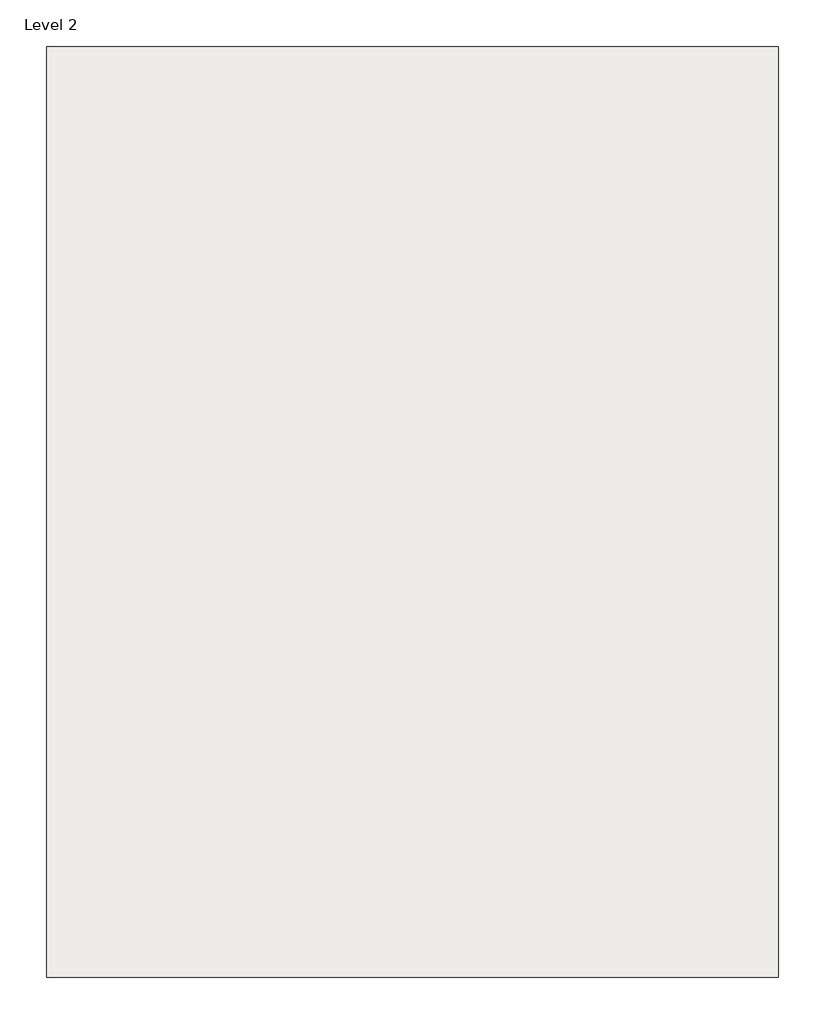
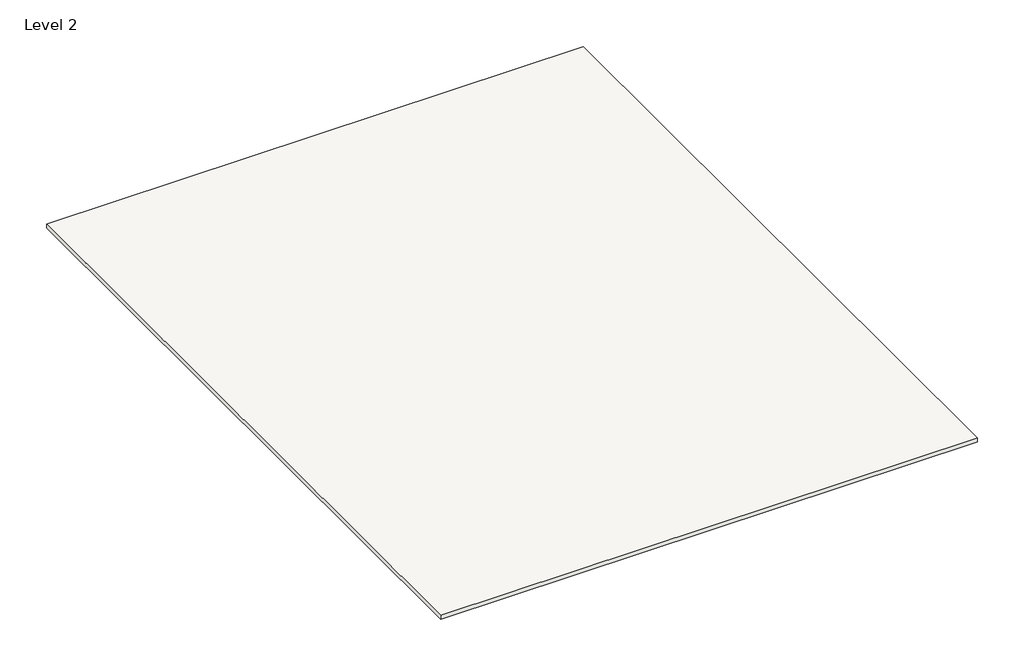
# One storey: 1 covering.
"""IFC4 building model written with IfcOpenShell, lengths in millimetres."""

from ifc_helpers import new_model, si_unit, frame, origin, place, context, project, spatial, polyline, outline, extrude, element, save

model = new_model("IFC4")

# Units and contexts
model_context = context("Model", 3, world=origin())
ifc_project = project(units=[si_unit("LENGTHUNIT", "METRE", prefix="MILLI")], contexts=[model_context])

# Site, building, storey
site = spatial("IfcSite", under=ifc_project)
building = spatial("IfcBuilding", under=site)
storey = spatial("IfcBuildingStorey", under=building, Name="Level 2", Elevation=7000.0)

# Covering
placement = place(None, origin())
element("IfcCovering", 1, ObjectType="GWB on Mtl Stud", at=placement, inside=storey, context=model_context, shape_type="SweptSolid", body=[
    extrude(outline(polyline([(-1405.090184, 4615.2076786), (-1405.090184, -4284.7923214), (-8405.090184, -4284.7923214), (-8405.090184, 4615.2076786), (-1405.090184, 4615.2076786)])), frame((0.0, 0.0, 7000.0), z_axis=(0.0, 0.0, 1.0), x_axis=(1.0, 0.0, 0.0)), (0.0, 0.0, 1.0), 57.0),
])

save(model, "model.ifc")
